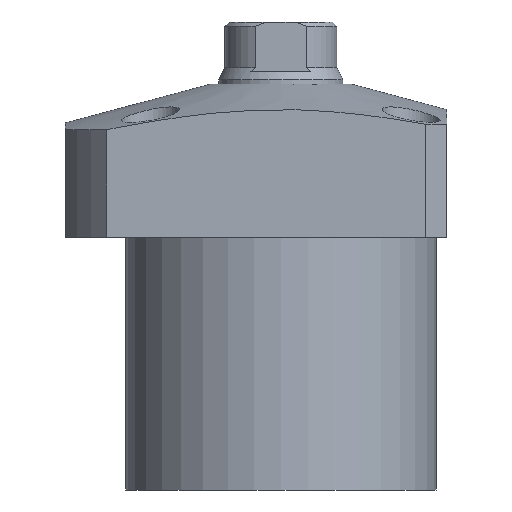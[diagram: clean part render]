
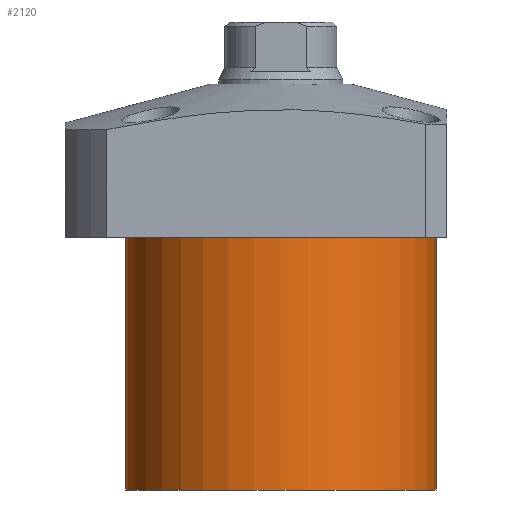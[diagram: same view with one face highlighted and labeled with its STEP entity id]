
A CAD part, front view. The second image highlights one B-rep face of the part: STEP entity #2120.
In plain terms, the highlighted cylindrical face has radius 37.5 mm (diameter 75 mm), a partial arc.
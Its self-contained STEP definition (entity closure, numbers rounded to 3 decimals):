
#73 = CARTESIAN_POINT ( 'NONE',  ( 0., 0., -79.5 ) ) ;
#319 = DIRECTION ( 'NONE',  ( 0., 0., 1. ) ) ;
#496 = CARTESIAN_POINT ( 'NONE',  ( 37.5, 0., -79.5 ) ) ;
#518 = DIRECTION ( 'NONE',  ( 1., 0., 0. ) ) ;
#582 = AXIS2_PLACEMENT_3D ( 'NONE', #1015, #2399, #810 ) ;
#624 = CIRCLE ( 'NONE', #1379, 37.5 ) ;
#771 = ORIENTED_EDGE ( 'NONE', *, *, #1285, .F. ) ;
#810 = DIRECTION ( 'NONE',  ( -1., 0., 0. ) ) ;
#855 = ORIENTED_EDGE ( 'NONE', *, *, #1985, .F. ) ;
#869 = LINE ( 'NONE', #496, #1699 ) ;
#925 = VERTEX_POINT ( 'NONE', #1132 ) ;
#1015 = CARTESIAN_POINT ( 'NONE',  ( 0., 0., -79.5 ) ) ;
#1132 = CARTESIAN_POINT ( 'NONE',  ( 37.5, 0., -79.5 ) ) ;
#1148 = VERTEX_POINT ( 'NONE', #1782 ) ;
#1285 = EDGE_CURVE ( 'NONE', #925, #1148, #2221, .T. ) ;
#1321 = LINE ( 'NONE', #1840, #1700 ) ;
#1379 = AXIS2_PLACEMENT_3D ( 'NONE', #2481, #1904, #518 ) ;
#1421 = DIRECTION ( 'NONE',  ( 0., 0., 1. ) ) ;
#1648 = AXIS2_PLACEMENT_3D ( 'NONE', #73, #2238, #2435 ) ;
#1699 = VECTOR ( 'NONE', #319, 1000. ) ;
#1700 = VECTOR ( 'NONE', #1421, 1000. ) ;
#1782 = CARTESIAN_POINT ( 'NONE',  ( -37.5, 0., -79.5 ) ) ;
#1840 = CARTESIAN_POINT ( 'NONE',  ( -37.5, 0., -79.5 ) ) ;
#1904 = DIRECTION ( 'NONE',  ( 0., 0., -1. ) ) ;
#1985 = EDGE_CURVE ( 'NONE', #1148, #2033, #1321, .T. ) ;
#2033 = VERTEX_POINT ( 'NONE', #2207 ) ;
#2072 = CARTESIAN_POINT ( 'NONE',  ( 37.5, 0., -18.5 ) ) ;
#2087 = VERTEX_POINT ( 'NONE', #2072 ) ;
#2097 = FACE_OUTER_BOUND ( 'NONE', #2266, .T. ) ;
#2120 = ADVANCED_FACE ( 'NONE', ( #2097 ), #2463, .T. ) ;
#2184 = ORIENTED_EDGE ( 'NONE', *, *, #2226, .T. ) ;
#2207 = CARTESIAN_POINT ( 'NONE',  ( -37.5, 0., -18.5 ) ) ;
#2221 = CIRCLE ( 'NONE', #582, 37.5 ) ;
#2226 = EDGE_CURVE ( 'NONE', #925, #2087, #869, .T. ) ;
#2238 = DIRECTION ( 'NONE',  ( 0., 0., 1. ) ) ;
#2266 = EDGE_LOOP ( 'NONE', ( #855, #771, #2184, #2353 ) ) ;
#2297 = EDGE_CURVE ( 'NONE', #2087, #2033, #624, .T. ) ;
#2353 = ORIENTED_EDGE ( 'NONE', *, *, #2297, .T. ) ;
#2399 = DIRECTION ( 'NONE',  ( 0., 0., -1. ) ) ;
#2435 = DIRECTION ( 'NONE',  ( 1., 0., 0. ) ) ;
#2463 = CYLINDRICAL_SURFACE ( 'NONE', #1648, 37.5 ) ;
#2481 = CARTESIAN_POINT ( 'NONE',  ( 0., 0., -18.5 ) ) ;
